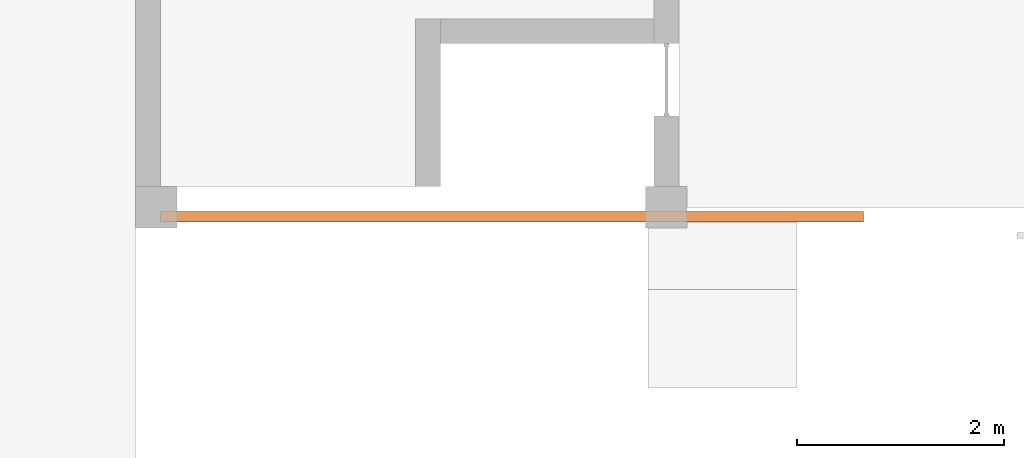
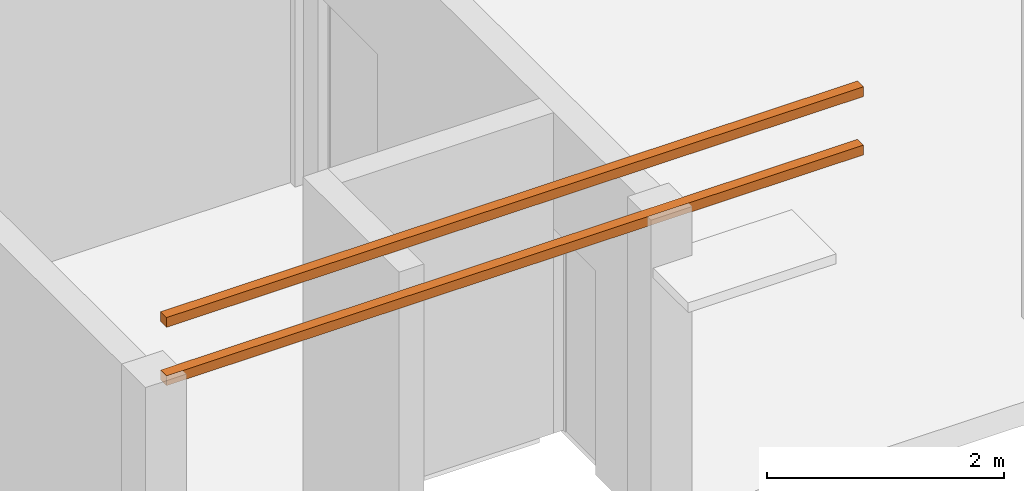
# One storey, part 6 of 14: 2 proxies.
"""IFC2X3 building model written with IfcOpenShell, lengths in millimetres."""

from ifc_helpers import new_model, entity, si_unit, converted_unit, derived_unit, direction, frame, frame_2d, origin, origin_2d_with_axis, place, context, subcontext, project, spatial, rectangle, extrude, element, save


model = new_model("IFC2X3")

# Units and contexts
model_context = context("Model", 3, precision=0.01, world=origin(), true_north=direction((6.12303176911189e-17, 1.0)))
body_context = subcontext(model_context, "Body", "Model", "MODEL_VIEW")
ifc_project = project(units=[si_unit("LENGTHUNIT", "METRE", prefix="MILLI"), si_unit("AREAUNIT", "SQUARE_METRE"), si_unit("VOLUMEUNIT", "CUBIC_METRE"), converted_unit("PLANEANGLEUNIT", "DEGREE", entity("IfcRatioMeasure", 0.0174532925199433), si_unit("PLANEANGLEUNIT", "RADIAN"), dimensions=[0, 0, 0, 0, 0, 0, 0]), si_unit("MASSUNIT", "GRAM", prefix="KILO"), derived_unit("MASSDENSITYUNIT", [(si_unit("MASSUNIT", "GRAM", prefix="KILO"), 1), (si_unit("LENGTHUNIT", "METRE"), -3)]), si_unit("TIMEUNIT", "SECOND"), si_unit("FREQUENCYUNIT", "HERTZ"), si_unit("THERMODYNAMICTEMPERATUREUNIT", "DEGREE_CELSIUS"), derived_unit("THERMALTRANSMITTANCEUNIT", [(si_unit("MASSUNIT", "GRAM", prefix="KILO"), 1), (si_unit("THERMODYNAMICTEMPERATUREUNIT", "KELVIN"), -1), (si_unit("TIMEUNIT", "SECOND"), -3)]), derived_unit("VOLUMETRICFLOWRATEUNIT", [(si_unit("LENGTHUNIT", "METRE"), 3), (si_unit("TIMEUNIT", "SECOND"), -1)]), si_unit("ELECTRICCURRENTUNIT", "AMPERE"), si_unit("ELECTRICVOLTAGEUNIT", "VOLT"), si_unit("POWERUNIT", "WATT"), si_unit("FORCEUNIT", "NEWTON", prefix="KILO"), si_unit("ILLUMINANCEUNIT", "LUX"), si_unit("LUMINOUSFLUXUNIT", "LUMEN"), si_unit("LUMINOUSINTENSITYUNIT", "CANDELA"), derived_unit("USERDEFINED", [(si_unit("MASSUNIT", "GRAM", prefix="KILO"), -1), (si_unit("LENGTHUNIT", "METRE"), -2), (si_unit("TIMEUNIT", "SECOND"), 3), (si_unit("LUMINOUSFLUXUNIT", "LUMEN"), 1)]), derived_unit("LINEARVELOCITYUNIT", [(si_unit("LENGTHUNIT", "METRE"), 1), (si_unit("TIMEUNIT", "SECOND"), -1)]), si_unit("PRESSUREUNIT", "PASCAL"), derived_unit("USERDEFINED", [(si_unit("LENGTHUNIT", "METRE"), -2), (si_unit("MASSUNIT", "GRAM", prefix="KILO"), 1), (si_unit("TIMEUNIT", "SECOND"), -2)])], contexts=[model_context])

# Site, building, storey
site_placement = place(None, origin())
site = spatial("IfcSite", under=ifc_project, at=site_placement, Name="表面", CompositionType="ELEMENT")
building_placement = place(site_placement, origin())
building = spatial("IfcBuilding", under=site, at=building_placement, CompositionType="ELEMENT")
storey_placement = place(building_placement, origin())
storey = spatial("IfcBuildingStorey", under=building, at=storey_placement, Name="±0.000", CompositionType="ELEMENT", Elevation=0.0)

# Proxies
proxy_1_placement = place(storey_placement, origin())
element("IfcBuildingElementProxy", 1, at=proxy_1_placement, inside=storey, Name="墙饰条:压顶", ObjectType="墙饰条:压顶", context=body_context, shape_type="SweptSolid", body=[
    extrude(rectangle(XDim=4880.00000000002, YDim=100.0, at=frame_2d((2.27373675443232e-12, -3.19744231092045e-14), x_axis=(1.0, 0.0))), frame((-35968.798781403, 519.697407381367, 3800.0)), (0.0, 0.0, 1.0), 100.0),
    extrude(rectangle(XDim=1900.00000000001, YDim=100.0, at=origin_2d_with_axis()), frame((-32578.798781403, 519.697407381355, 3800.0)), (0.0, 0.0, 1.0), 100.0),
])
proxy_2_placement = place(storey_placement, origin())
element("IfcBuildingElementProxy", 2, at=proxy_2_placement, inside=storey, Name="墙饰条:压顶", ObjectType="墙饰条:压顶", context=body_context, shape_type="SweptSolid", body=[
    extrude(rectangle(XDim=4880.00000000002, YDim=100.0, at=frame_2d((2.27373675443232e-12, -3.19744231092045e-14), x_axis=(1.0, 0.0))), frame((-35968.798781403, 519.697407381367, 3200.0)), (0.0, 0.0, 1.0), 100.0),
    extrude(rectangle(XDim=1900.00000000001, YDim=100.0, at=origin_2d_with_axis()), frame((-32578.798781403, 519.697407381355, 3200.0)), (0.0, 0.0, 1.0), 100.0),
])

save(model, "model.ifc")
